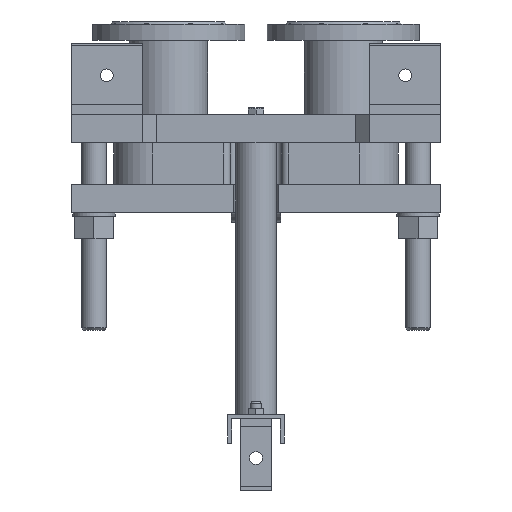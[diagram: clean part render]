
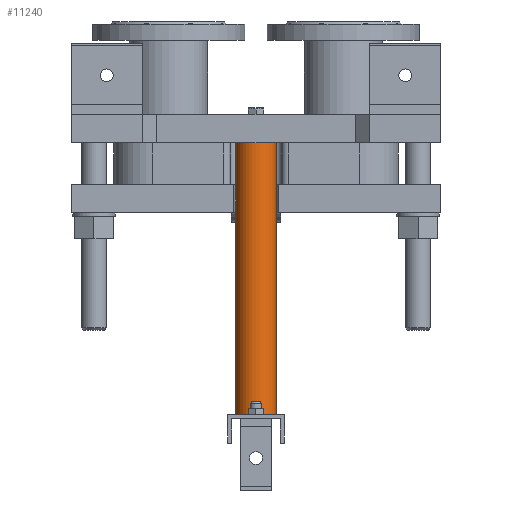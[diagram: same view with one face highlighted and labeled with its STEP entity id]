
A CAD part, front view. The second image highlights one B-rep face of the part: STEP entity #11240.
In plain terms, the highlighted cylindrical face has radius 28.5 mm (diameter 57 mm), a full revolution.
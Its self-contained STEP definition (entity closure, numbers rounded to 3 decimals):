
#781=LINE('',#22043,#1754);
#1754=VECTOR('',#14569,28.5);
#2333=CYLINDRICAL_SURFACE('',#12263,28.5);
#2995=FACE_OUTER_BOUND('',#3777,.T.);
#3777=EDGE_LOOP('',(#9013,#9014,#9015,#9016));
#4462=CIRCLE('',#12264,28.5);
#4463=CIRCLE('',#12265,28.5);
#5286=VERTEX_POINT('',#22040);
#5287=VERTEX_POINT('',#22042);
#6596=EDGE_CURVE('',#5286,#5286,#4462,.T.);
#6597=EDGE_CURVE('',#5286,#5287,#781,.T.);
#6598=EDGE_CURVE('',#5287,#5287,#4463,.T.);
#9013=ORIENTED_EDGE('',*,*,#6596,.F.);
#9014=ORIENTED_EDGE('',*,*,#6597,.T.);
#9015=ORIENTED_EDGE('',*,*,#6598,.T.);
#9016=ORIENTED_EDGE('',*,*,#6597,.F.);
#11240=ADVANCED_FACE('',(#2995),#2333,.T.);
#12263=AXIS2_PLACEMENT_3D('',#22039,#14565,#14566);
#12264=AXIS2_PLACEMENT_3D('',#22041,#14567,#14568);
#12265=AXIS2_PLACEMENT_3D('',#22044,#14570,#14571);
#14565=DIRECTION('center_axis',(0.,0.,
-1.));
#14566=DIRECTION('ref_axis',(-1.,0.,0.));
#14567=DIRECTION('center_axis',(0.,0.,
-1.));
#14568=DIRECTION('ref_axis',(-1.,0.,0.));
#14569=DIRECTION('',(0.,0.,1.));
#14570=DIRECTION('center_axis',(0.,0.,
-1.));
#14571=DIRECTION('ref_axis',(-1.,0.,0.));
#22039=CARTESIAN_POINT('Origin',(0.,215.,0.));
#22040=CARTESIAN_POINT('',(28.5,215.,-382.5));
#22041=CARTESIAN_POINT('Origin',(0.,215.,-382.5));
#22042=CARTESIAN_POINT('',(28.5,215.,0.));
#22043=CARTESIAN_POINT('',(28.5,215.,0.));
#22044=CARTESIAN_POINT('Origin',(0.,215.,0.));
